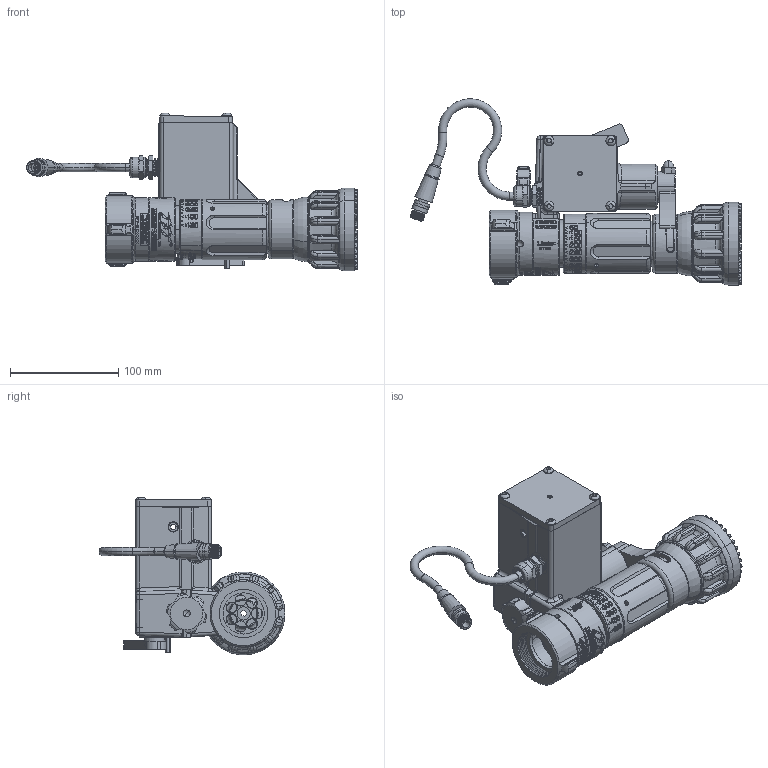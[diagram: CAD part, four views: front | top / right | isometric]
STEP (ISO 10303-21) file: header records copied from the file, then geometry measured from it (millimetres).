
FILE_DESCRIPTION (( 'STEP AP203' ), '1' );
FILE_NAME ('B-TOS-ERP.step', '2014-05-13T19:30:37', ( 'user' ), ( '' ), 'SwSTEP 2.0', 'SolidWorks 2012', '' );
FILE_SCHEMA (( 'CONFIG_CONTROL_DESIGN' ));
Products named in the file (1): B-TOS-ERP
Bounding box: 306 x 171.9 x 145.68 mm (x, y, z)
Surface area: 165988 mm2 (no closed solid volume)
Topology: 0 solids, 259 shells, 1562 faces, 9229 edges, 7798 vertices
Faces by surface type: cylinder 793, plane 357, cone 171, torus 130, bspline 99, sphere 12
Entity records: 140306 total; most frequent: CARTESIAN_POINT 79012, ORIENTED_EDGE 12278, DIRECTION 10005, EDGE_CURVE 9224, VERTEX_POINT 7796, AXIS2_PLACEMENT_3D 3794, B_SPLINE_CURVE_WITH_KNOTS 3701, LINE 2417
